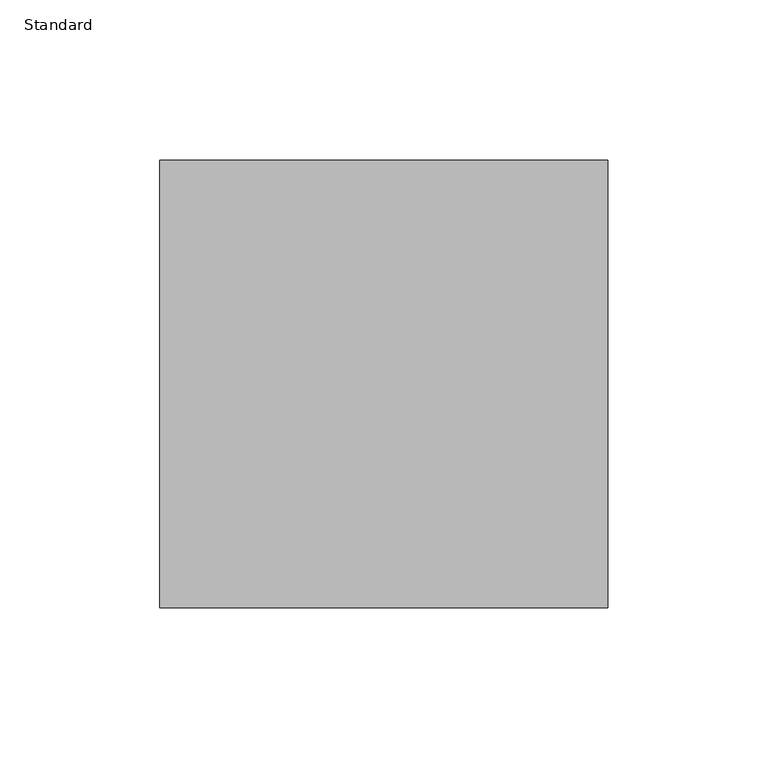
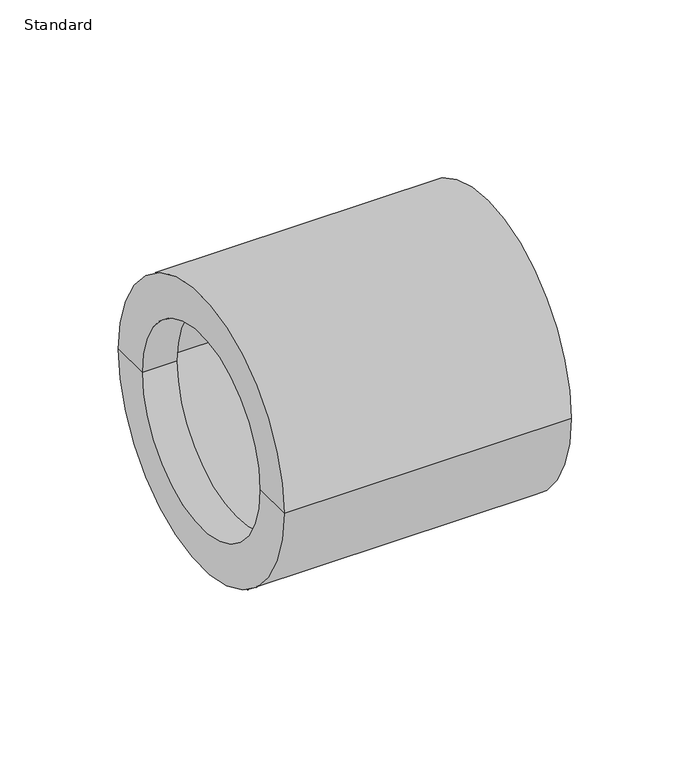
"""IFC4 building model written with IfcOpenShell, lengths in millimetres: pipe fitting geometry, Durapipe_PipeFitting_PVC_ReducingBush : Standard."""

from ifc_helpers import new_model, si_unit, frame, origin, place, context, project, spatial, polyline, circle_curve, source, transform, mapped, element, save
from ifc_brep_helpers import plane_surface, cylinder_surface, revolved_surface, advanced_brep


def standard_d3bba6bb(model_context):
    return source(origin(), model_context, "Body", "AdvancedBrep", [
        advanced_brep(
        [(-17.0, -50.0, 0.0), (-17.0, 50.0, 0.0), (-17.0, 70.0, 0.0), (-17.0, -70.0, 0.0), (0.0, -50.0, 0.0), (0.0, 50.0, 0.0), (0.0, -55.0, 0.0), (0.0, 55.0, 0.0), (123.0, -55.0, 0.0), (123.0, 55.0, 0.0), (123.0, -70.0, 0.0), (123.0, 70.0, 0.0)],
        [
            (0, 1, circle_curve(frame((-17.0, 0.0, 0.0), z_axis=(1.0, 0.0, 0.0), x_axis=(0.0, 1.0, 0.0)), 50.0)),
            (1, 2),
            (2, 3, circle_curve(frame((-17.0, 0.0, 0.0), z_axis=(-1.0, 0.0, 0.0), x_axis=(0.0, 1.0, 0.0)), 70.0)),
            (3, 0),
            (1, 0, circle_curve(frame((-17.0, 0.0, 0.0), z_axis=(1.0, 0.0, 0.0), x_axis=(0.0, 1.0, 0.0)), 50.0)),
            (3, 2, circle_curve(frame((-17.0, 0.0, 0.0), z_axis=(-1.0, 0.0, 0.0), x_axis=(0.0, 1.0, 0.0)), 70.0)),
            (4, 5, circle_curve(frame((0.0, 0.0, 0.0), z_axis=(1.0, 0.0, 0.0), x_axis=(0.0, 1.0, 0.0)), 50.0)),
            (5, 1),
            (0, 4),
            (5, 4, circle_curve(frame((0.0, 0.0, 0.0), z_axis=(1.0, 0.0, 0.0), x_axis=(0.0, 1.0, 0.0)), 50.0)),
            (6, 7, circle_curve(frame((0.0, 0.0, 0.0), z_axis=(1.0, 0.0, 0.0), x_axis=(0.0, 1.0, 0.0)), 55.0)),
            (7, 5),
            (4, 6),
            (7, 6, circle_curve(frame((0.0, 0.0, 0.0), z_axis=(1.0, 0.0, 0.0), x_axis=(0.0, 1.0, 0.0)), 55.0)),
            (8, 9, circle_curve(frame((123.0, 0.0, 0.0), z_axis=(1.0, 0.0, 0.0), x_axis=(0.0, 1.0, 0.0)), 55.0)),
            (9, 7),
            (6, 8),
            (9, 8, circle_curve(frame((123.0, 0.0, 0.0), z_axis=(1.0, 0.0, 0.0), x_axis=(0.0, 1.0, 0.0)), 55.0)),
            (10, 11, circle_curve(frame((123.0, 0.0, 0.0), z_axis=(1.0, 0.0, 0.0), x_axis=(0.0, 1.0, 0.0)), 70.0)),
            (11, 9),
            (8, 10),
            (11, 10, circle_curve(frame((123.0, 0.0, 0.0), z_axis=(1.0, 0.0, 0.0), x_axis=(0.0, 1.0, 0.0)), 70.0)),
            (2, 11),
            (10, 3),
        ],
        [
            plane_surface(frame((-17.0, 0.0, 0.0), z_axis=(-1.0, 0.0, 0.0), x_axis=(0.0, 1.0, 0.0))),
            revolved_surface(polyline([(-17.0, 50.0, 0.0), (0.0, 50.0, 0.0)]), (2109.0, 0.0, 0.0), (-1.0, 0.0, 0.0)),
            plane_surface(frame((0.0, 0.0, 0.0), z_axis=(1.0, 0.0, 0.0), x_axis=(0.0, 1.0, 0.0))),
            revolved_surface(polyline([(0.0, 55.0, 0.0), (123.0, 55.0, 0.0)]), (2109.0, 0.0, 0.0), (-1.0, 0.0, 0.0)),
            plane_surface(frame((123.0, 0.0, 0.0), z_axis=(1.0, 0.0, 0.0), x_axis=(0.0, 1.0, 0.0))),
            cylinder_surface(frame((2109.0, 0.0, 0.0), z_axis=(-1.0, 0.0, 0.0), x_axis=(0.0, 1.0, 0.0)), 70.0),
        ],
        [
            (0, [[1, 2, 3, 4]]),
            (0, [[5, -4, 6, -2]]),
            (1, [[7, 8, -1, 9]]),
            (1, [[10, -9, -5, -8]]),
            (2, [[11, 12, -7, 13]]),
            (2, [[14, -13, -10, -12]]),
            (3, [[15, 16, -11, 17]]),
            (3, [[18, -17, -14, -16]]),
            (4, [[19, 20, -15, 21]]),
            (4, [[22, -21, -18, -20]]),
            (5, [[-3, 23, -19, 24]]),
            (5, [[-6, -24, -22, -23]]),
        ],
    ),
    ])


if __name__ == "__main__":
    model = new_model("IFC4")
    model_context = context("Model", 3, world=origin())
    ifc_project = project(units=[si_unit("LENGTHUNIT", "METRE", prefix="MILLI")], contexts=[model_context])
    site = spatial("IfcSite", under=ifc_project)
    building = spatial("IfcBuilding", under=site)
    placement = place(None, origin())
    standard_shape = standard_d3bba6bb(model_context)
    element("IfcPipeFitting", 1, ObjectType="Durapipe_PipeFitting_PVC_ReducingBush : Standard", at=placement, inside=building, context=model_context, shape_type="MappedRepresentation", body=[
        mapped(standard_shape, transform((0.0, 0.0, 0.0), x_axis=(1.0, 0.0, 0.0), y_axis=(0.0, 1.0, 0.0), z_axis=(0.0, 0.0, 1.0))),
    ])
    save(model, "model.ifc")
